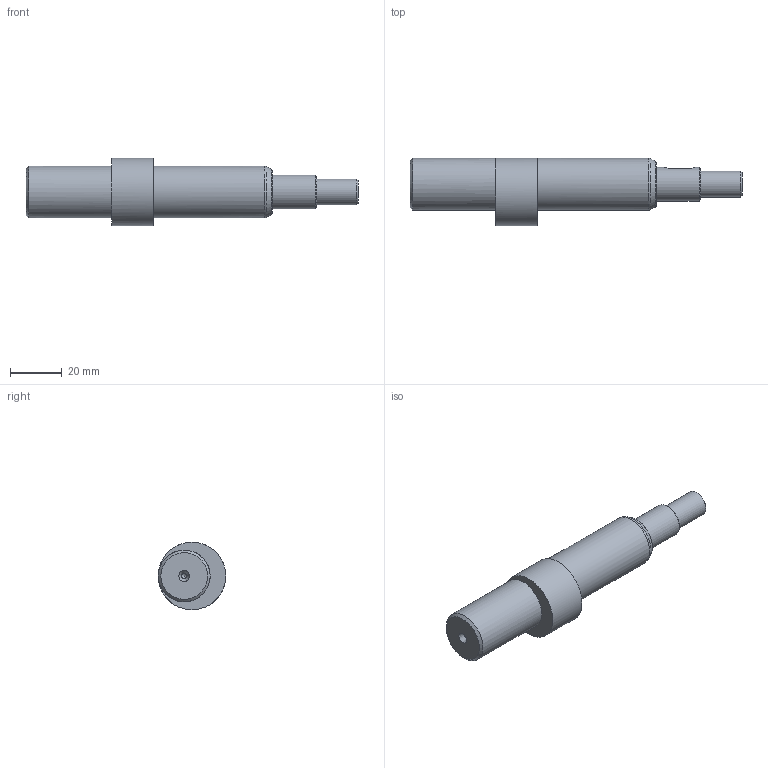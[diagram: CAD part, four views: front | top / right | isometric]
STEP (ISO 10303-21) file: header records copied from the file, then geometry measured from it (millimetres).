
FILE_DESCRIPTION(/* description */ (''),/* implementation_level */ '2;1');
FILE_NAME(/* name */ '',/* time_stamp */ '2024-08-09T13:00:32+09:00',/* author */ ('jhkim'),/* organization */ (''),/* preprocessor_version */ 'ST-DEVELOPER v20',/* originating_system */ 'Autodesk Inventor 2025',/* authorisation */ '');
FILE_SCHEMA (('AUTOMOTIVE_DESIGN { 1 0 10303 214 3 1 1 }'));
Length unit declared in the file: millimetre
Products named in the file (1): 편심축
Bounding box: 128 x 26 x 26 mm (x, y, z)
Volume: 36460.8 mm3; surface area: 8519.3 mm2
Topology: 1 solids, 1 shells, 28 faces, 63 edges, 40 vertices
Faces by surface type: cylinder 9, plane 9, cone 8, torus 2
Full cylindrical faces by diameter (mm): 2 x2, 10 x1, 13 x1, 20 x2, 26 x1
Entity records: 854 total; most frequent: CARTESIAN_POINT 166, DIRECTION 149, ORIENTED_EDGE 122, AXIS2_PLACEMENT_3D 63, EDGE_CURVE 61, VERTEX_POINT 40, CIRCLE 34, EDGE_LOOP 33
